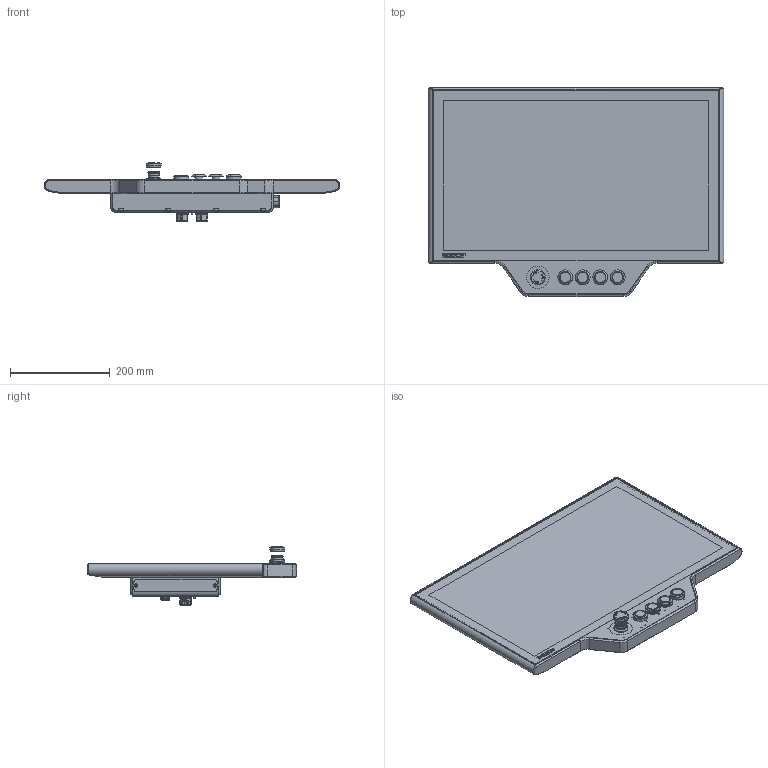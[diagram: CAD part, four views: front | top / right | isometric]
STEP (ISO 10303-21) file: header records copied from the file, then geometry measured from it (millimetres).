
FILE_DESCRIPTION(/* description */ ('-'),/* implementation_level */ '2;1');
FILE_NAME(/* name */ 'C:\Export\0000010260.stp',/* time_stamp */ '2021-09-29T14:48:20+02:00',/* author */ ('-'),/* organization */ ('(c) Beckhoff Automation GmbH & Co. KG, 33415 Verl'),/* preprocessor_version */ 'ST-DEVELOPER v18.1',/* originating_system */ 'Autodesk Inventor 2020',/* authorisation */ '-');
FILE_SCHEMA (('AUTOMOTIVE_DESIGN { 1 0 10303 214 3 1 1 }'));
Products named in the file (1): CP3724-1600-00x0_G056_G057
Bounding box: 592.14 x 418.4 x 116.63 mm (x, y, z)
Volume: 7885880 mm3; surface area: 630844.7 mm2
Topology: 7 solids, 37 shells, 4711 faces, 12691 edges, 8345 vertices
Faces by surface type: plane 2247, cylinder 1037, bspline 1020, cone 201, torus 165, sphere 41
Full cylindrical faces by diameter (mm): 1 x28, 1.18 x12, 1.2 x12, 1.4 x3, 2.459 x21, 2.5 x29, 2.693 x2, 3 x2, 3.2 x2, 3.242 x1, 3.4 x8, 4 x2, 4.25 x4, 4.6 x1, 4.917 x4, 5 x10, 5.5 x7, 7 x1, 8.5 x8, 8.8 x8, 9 x1, 15 x4, 16.469 x1, 17.1 x1, 17.4 x1, 17.7 x2, 19 x4, 19.8 x2, 19.85 x4, 20 x1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
Entity records: 179049 total; most frequent: CARTESIAN_POINT 60222, ORIENTED_EDGE 25300, DIRECTION 21113, EDGE_CURVE 12650, VERTEX_POINT 8344, LINE 7125, VECTOR 7125, AXIS2_PLACEMENT_3D 6994
